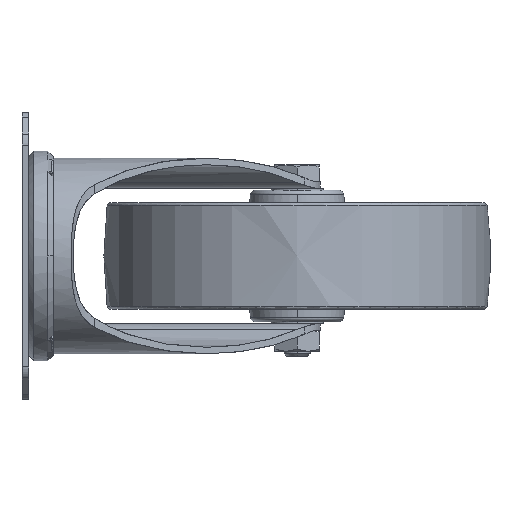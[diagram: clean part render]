
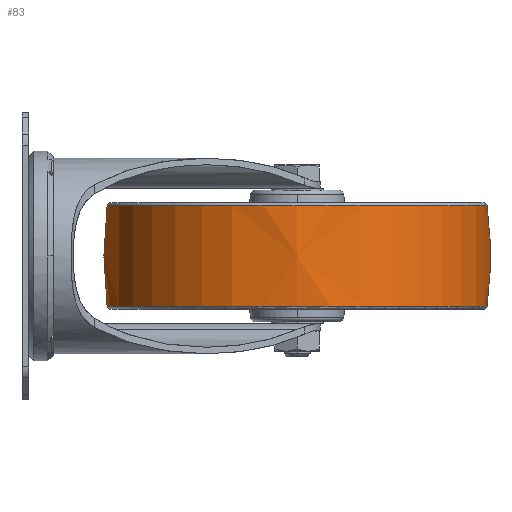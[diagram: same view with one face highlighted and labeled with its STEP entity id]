
A CAD part, left-side view. The second image highlights one B-rep face of the part: STEP entity #83.
In plain terms, the highlighted free-form (B-spline) face has degree [2, 2] with [9, 3] control points.
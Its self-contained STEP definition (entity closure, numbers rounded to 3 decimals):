
#2=CARTESIAN_POINT('',(51.2,-171.167,19.192));
#3=CARTESIAN_POINT('',(124.067,-171.167,19.192));
#4=CARTESIAN_POINT('',(124.067,-98.299,19.192));
#5=CARTESIAN_POINT('',(124.067,-25.432,19.192));
#6=CARTESIAN_POINT('',(51.2,-25.432,19.192));
#7=CARTESIAN_POINT('',(-21.667,-25.432,19.192));
#8=CARTESIAN_POINT('',(-21.667,-98.299,19.192));
#9=CARTESIAN_POINT('',(-21.667,-171.167,19.192));
#10=CARTESIAN_POINT('',(51.2,-171.167,19.192));
#11=CARTESIAN_POINT('',(51.2,-173.643,0.));
#12=CARTESIAN_POINT('',(126.543,-173.643,0.));
#13=CARTESIAN_POINT('',(126.543,-98.299,0.));
#14=CARTESIAN_POINT('',(126.543,-22.956,0.));
#15=CARTESIAN_POINT('',(51.2,-22.956,0.));
#16=CARTESIAN_POINT('',(-24.143,-22.956,0.));
#17=CARTESIAN_POINT('',(-24.143,-98.299,0.));
#18=CARTESIAN_POINT('',(-24.143,-173.643,0.));
#19=CARTESIAN_POINT('',(51.2,-173.643,0.));
#20=CARTESIAN_POINT('',(51.2,-171.167,-19.192));
#21=CARTESIAN_POINT('',(124.067,-171.167,-19.192));
#22=CARTESIAN_POINT('',(124.067,-98.299,-19.192));
#23=CARTESIAN_POINT('',(124.067,-25.432,-19.192));
#24=CARTESIAN_POINT('',(51.2,-25.432,-19.192));
#25=CARTESIAN_POINT('',(-21.667,-25.432,-19.192));
#26=CARTESIAN_POINT('',(-21.667,-98.299,-19.192));
#27=CARTESIAN_POINT('',(-21.667,-171.167,-19.192));
#28=CARTESIAN_POINT('',(51.2,-171.167,-19.192));
#36=(BOUNDED_SURFACE()B_SPLINE_SURFACE(2,2,((#2,#11,#20),(#3,#12,#21),(#4,#13,#22),(#5,#14,#23),(#6,#15,#24),(#7,#16,#25),(#8,#17,#26),(#9,#18,#27),(#10,#19,#28)),.UNSPECIFIED.,.T.,.F.,.U.)B_SPLINE_SURFACE_WITH_KNOTS((3,2,2,2,3),(3,3),(0.0,0.25,0.5,0.75,1.0),(0.0,1.0),.UNSPECIFIED.)GEOMETRIC_REPRESENTATION_ITEM()RATIONAL_B_SPLINE_SURFACE(((1.0,0.992,1.0),(0.707,0.701,0.707),(1.0,0.992,1.0),(0.707,0.701,0.707),(1.0,0.992,1.0),(0.707,0.701,0.707),(1.0,0.992,1.0),(0.707,0.701,0.707),(1.0,0.992,1.0)))REPRESENTATION_ITEM('')SURFACE());
#37=CARTESIAN_POINT('',(51.2,-171.167,19.192));
#38=VERTEX_POINT('',#37);
#39=CARTESIAN_POINT('',(51.2,-171.167,-19.192));
#40=VERTEX_POINT('',#39);
#41=CARTESIAN_POINT('',(51.2,-22.399,0.0));
#42=DIRECTION('',(1.0,0.0,0.0));
#43=DIRECTION('',(0.0,0.0,-1.0));
#44=AXIS2_PLACEMENT_3D('',#41,#42,#43);
#45=CIRCLE('',#44,150.0);
#46=EDGE_CURVE('',#38,#40,#45,.T.);
#47=ORIENTED_EDGE('',*,*,#46,.T.);
#48=CARTESIAN_POINT('',(51.2,-25.432,-19.192));
#49=VERTEX_POINT('',#48);
#50=CARTESIAN_POINT('',(51.2,-98.299,-19.192));
#51=DIRECTION('',(0.0,0.0,1.0));
#52=DIRECTION('',(0.0,-1.0,0.0));
#53=AXIS2_PLACEMENT_3D('',#50,#51,#52);
#54=CIRCLE('',#53,72.867);
#55=EDGE_CURVE('',#40,#49,#54,.T.);
#56=ORIENTED_EDGE('',*,*,#55,.T.);
#57=CARTESIAN_POINT('',(51.2,-98.299,-19.192));
#58=DIRECTION('',(0.0,0.0,1.0));
#59=DIRECTION('',(0.0,-1.0,0.0));
#60=AXIS2_PLACEMENT_3D('',#57,#58,#59);
#61=CIRCLE('',#60,72.867);
#62=EDGE_CURVE('',#49,#40,#61,.T.);
#63=ORIENTED_EDGE('',*,*,#62,.T.);
#64=ORIENTED_EDGE('',*,*,#46,.F.);
#65=CARTESIAN_POINT('',(51.2,-25.432,19.192));
#66=VERTEX_POINT('',#65);
#67=CARTESIAN_POINT('',(51.2,-98.299,19.192));
#68=DIRECTION('',(0.0,0.0,1.0));
#69=DIRECTION('',(0.0,-1.0,0.0));
#70=AXIS2_PLACEMENT_3D('',#67,#68,#69);
#71=CIRCLE('',#70,72.867);
#72=EDGE_CURVE('',#66,#38,#71,.T.);
#73=ORIENTED_EDGE('',*,*,#72,.F.);
#74=CARTESIAN_POINT('',(51.2,-98.299,19.192));
#75=DIRECTION('',(0.0,0.0,1.0));
#76=DIRECTION('',(0.0,-1.0,0.0));
#77=AXIS2_PLACEMENT_3D('',#74,#75,#76);
#78=CIRCLE('',#77,72.867);
#79=EDGE_CURVE('',#38,#66,#78,.T.);
#80=ORIENTED_EDGE('',*,*,#79,.F.);
#81=EDGE_LOOP('',(#47,#56,#63,#64,#73,#80));
#82=FACE_OUTER_BOUND('',#81,.T.);
#83=ADVANCED_FACE('',(#82),#36,.F.);
